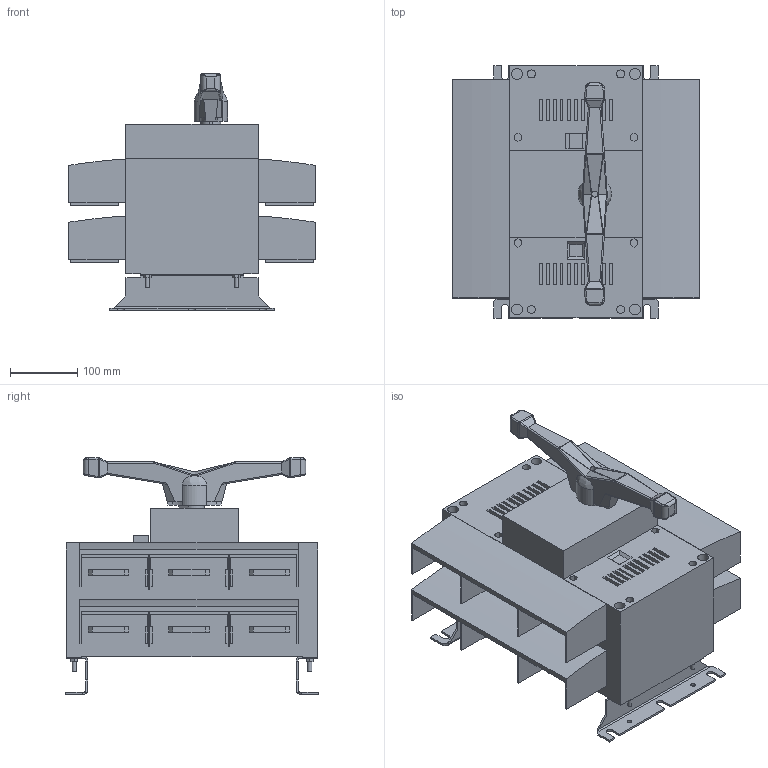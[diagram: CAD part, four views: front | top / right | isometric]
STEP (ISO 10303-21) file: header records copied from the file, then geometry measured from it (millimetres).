
FILE_DESCRIPTION(/* description */ (''),/* implementation_level */ '2;1');
FILE_NAME(/* name */ '3-19.5.stp',/* time_stamp */ '2024-03-22T11:32:40+08:00',/* author */ (''),/* organization */ (''),/* preprocessor_version */ 'ST-DEVELOPER v14',/* originating_system */ 'SIEMENS PLM Software NX 8.0',/* authorisation */ '');
FILE_SCHEMA (('AP203_CONFIGURATION_CONTROLLED_3D_DESIGN_OF_MECHANICAL_PARTS_AND_ASSEMBLIES_MIM_LF { 1 0 10303 403 2 1 2}'));
Length unit declared in the file: millimetre
Products named in the file (1): Admi18D8FE66q55p
Bounding box: 368 x 377.5 x 352.4 mm (x, y, z)
Volume: 14702657.4 mm3; surface area: 1185840.6 mm2
Topology: 6 solids, 6 shells, 1295 faces, 3436 edges, 2252 vertices
Faces by surface type: plane 983, cylinder 262, bspline 38, torus 8, sphere 4
Full cylindrical faces by diameter (mm): 2.5 x1, 5 x1, 6 x4, 6.5 x4, 9 x3, 12 x4, 16 x4
Entity records: 41995 total; most frequent: CARTESIAN_POINT 9415, ORIENTED_EDGE 6784, DIRECTION 6445, EDGE_CURVE 3392, LINE 2751, VECTOR 2751, VERTEX_POINT 2241, AXIS2_PLACEMENT_3D 1847
